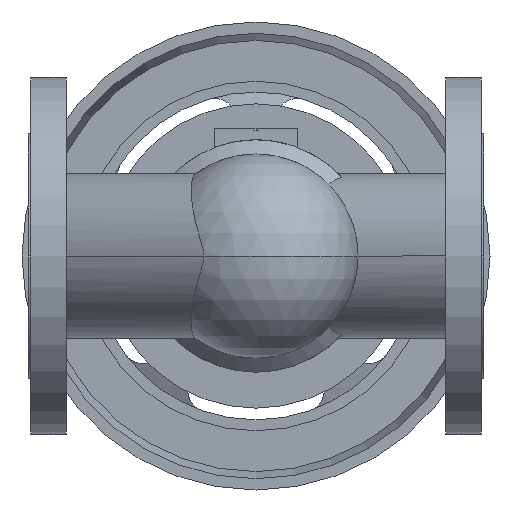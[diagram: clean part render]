
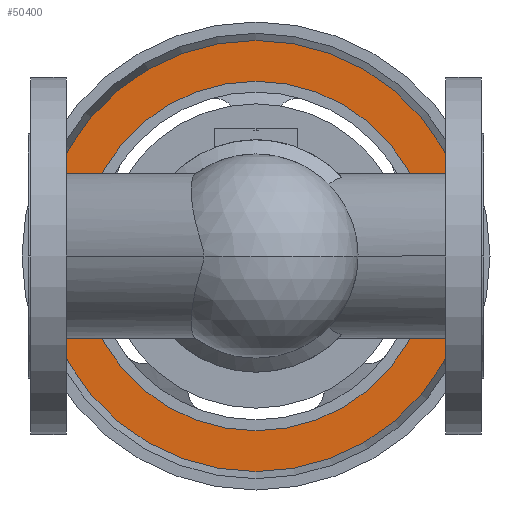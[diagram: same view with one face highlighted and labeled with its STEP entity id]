
A CAD part, front view. The second image highlights one B-rep face of the part: STEP entity #50400.
In plain terms, the highlighted planar face has unit normal (0, -1, 0).
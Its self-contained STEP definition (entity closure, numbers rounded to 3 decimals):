
#49850=CARTESIAN_POINT('',(7.802,488.9,0.));
#49860=VERTEX_POINT('',#49850);
#49890=CARTESIAN_POINT('',(146.,488.9,0.));
#49900=DIRECTION('',(0.,1.,0.));
#49910=DIRECTION('',(-1.,0.,0.));
#49920=AXIS2_PLACEMENT_3D('',#49890,#49900,#49910);
#49930=CIRCLE('',#49920,138.198);
#49940=CARTESIAN_POINT('',(284.198,488.9,0.));
#49950=VERTEX_POINT('',#49940);
#49960=EDGE_CURVE('',#49950,#49860,#49930,.T.);
#50150=CARTESIAN_POINT('',(20.901,488.9,0.))
;
#50160=DIRECTION('',(0.,-1.,0.));
#50170=DIRECTION('',(1.,0.,0.));
#50180=AXIS2_PLACEMENT_3D('',#50150,#50160,#50170);
#50190=PLANE('',#50180);
#50200=ORIENTED_EDGE('',*,*,#49960,.F.);
#50210=EDGE_CURVE('',#49860,#49950,#49930,.T.);
#50220=ORIENTED_EDGE('',*,*,#50210,.F.);
#50230=EDGE_LOOP('',(#50220,#50200));
#50240=FACE_OUTER_BOUND('',#50230,.T.);
#50250=CARTESIAN_POINT('',(146.,488.9,0.));
#50260=DIRECTION('',(0.,1.,0.));
#50270=DIRECTION('',(-1.,0.,0.));
#50280=AXIS2_PLACEMENT_3D('',#50250,#50260,#50270);
#50290=CIRCLE('',#50280,112.);
#50300=CARTESIAN_POINT('',(34.,488.9,0.));
#50310=VERTEX_POINT('',#50300);
#50320=CARTESIAN_POINT('',(258.,488.9,0.));
#50330=VERTEX_POINT('',#50320);
#50340=EDGE_CURVE('',#50310,#50330,#50290,.T.);
#50350=ORIENTED_EDGE('',*,*,#50340,.T.);
#50360=EDGE_CURVE('',#50330,#50310,#50290,.T.);
#50370=ORIENTED_EDGE('',*,*,#50360,.T.);
#50380=EDGE_LOOP('',(#50370,#50350));
#50390=FACE_BOUND('',#50380,.T.);
#50400=ADVANCED_FACE('',(#50240,#50390),#50190,.T.);
